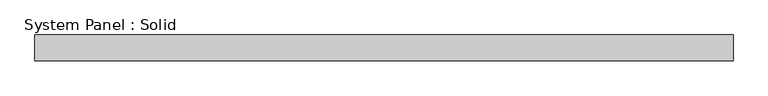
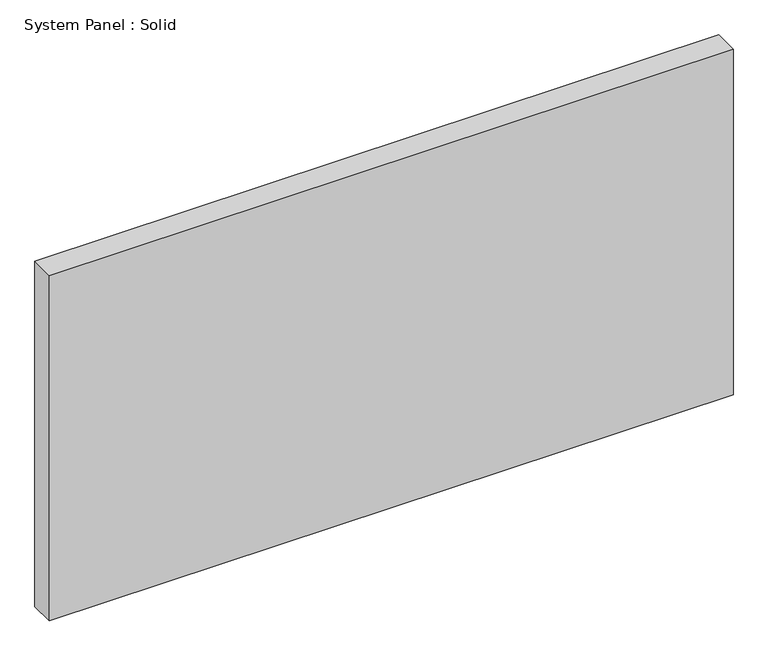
"""IFC4 building model written with IfcOpenShell, lengths in millimetres: plate geometry, System Panel : Solid."""

from ifc_helpers import new_model, si_unit, origin, origin_with_axes, place, context, project, spatial, polyline, outline, extrude, source, transform, mapped, element, save


def system_panel_solid_9a748515(model_context):
    return source(origin(), model_context, "Body", "SweptSolid", [
        extrude(outline(polyline([(862.2635594, -19.05), (-862.2635594, -19.05), (-862.2635594, 44.45), (862.2635594, 44.45), (862.2635594, -19.05)])), origin_with_axes(), (0.0, 0.0, 1.0), 920.75),
    ])


if __name__ == "__main__":
    model = new_model("IFC4")
    model_context = context("Model", 3, world=origin())
    ifc_project = project(units=[si_unit("LENGTHUNIT", "METRE", prefix="MILLI")], contexts=[model_context])
    site = spatial("IfcSite", under=ifc_project)
    building = spatial("IfcBuilding", under=site)
    placement = place(None, origin())
    system_panel_solid_shape = system_panel_solid_9a748515(model_context)
    element("IfcPlate", 1, ObjectType="System Panel : Solid", at=placement, inside=building, context=model_context, shape_type="MappedRepresentation", body=[
        mapped(system_panel_solid_shape, transform((0.0, 0.0, 0.0), x_axis=(1.0, 0.0, 0.0), y_axis=(0.0, 1.0, 0.0), z_axis=(0.0, 0.0, 1.0))),
    ])
    save(model, "model.ifc")
